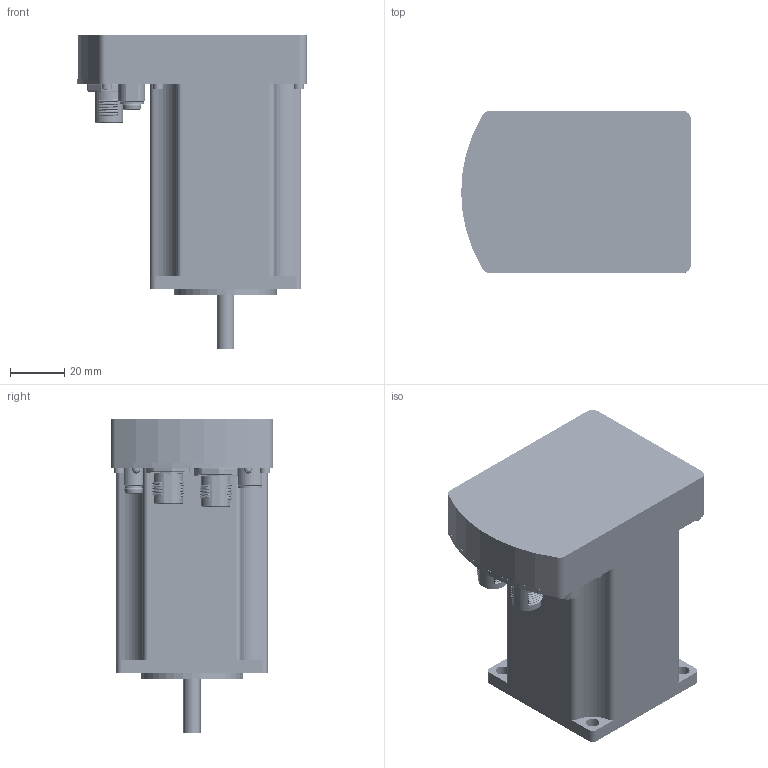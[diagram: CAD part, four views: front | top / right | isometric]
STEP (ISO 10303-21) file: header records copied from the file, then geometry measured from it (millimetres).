
FILE_DESCRIPTION (( 'STEP AP214' ), '1' );
FILE_NAME ('233.STEP', '2023-05-02T07:43:47', ( '' ), ( '' ), 'SwSTEP 2.0', 'SolidWorks 2017', '' );
FILE_SCHEMA (( 'AUTOMOTIVE_DESIGN' ));
Length unit declared in the file: millimetre
Products named in the file (8): P036.710.0005.10C simplif; P036  IS23 Motor-23x_233; P036.752.0002.10A iMOT23x-TM Baseplate_D‚faut; BN7_screw_inbus_M2_5; P036.161.0001.10A Magnet Carrier iMOT23_D‚faut; 233; P036.752.0003.01A iMOT23 Cover_D‚faut; M12.Cylinder
Assembly tree (15 placements, depth 2):
  233
    P036.752.0002.10A iMOT23x-TM Baseplate_D‚faut
    M12.Cylinder
    P036  IS23 Motor-23x_233
    P036.161.0001.10A Magnet Carrier iMOT23_D‚faut
    P036.752.0003.01A iMOT23 Cover_D‚faut
    BN7_screw_inbus_M2_5  x9
    P036.710.0005.10C simplif
Bounding box: 85 x 60 x 116 mm (x, y, z)
Volume: 241626.1 mm3; surface area: 73713.6 mm2
Topology: 15 solids, 165 shells, 5747 faces, 15088 edges, 9752 vertices
Faces by surface type: plane 2861, cylinder 2048, bspline 469, cone 189, torus 169, sphere 11
Entity records: 251477 total; most frequent: CARTESIAN_POINT 63426, ORIENTED_EDGE 28768, DIRECTION 26516, EDGE_CURVE 14436, VERTEX_POINT 9444, AXIS2_PLACEMENT_3D 8933, LINE 8650, VECTOR 8650
